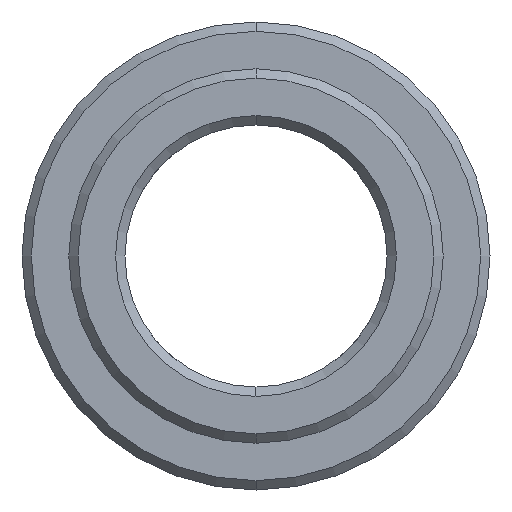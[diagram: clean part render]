
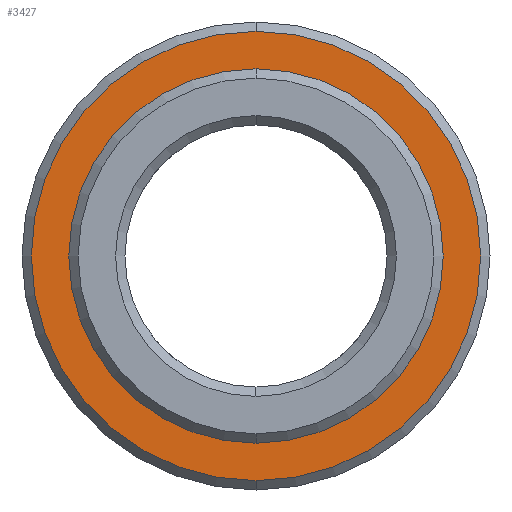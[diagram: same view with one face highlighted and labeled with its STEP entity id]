
A CAD part, left-side view. The second image highlights one B-rep face of the part: STEP entity #3427.
In plain terms, the highlighted planar face has unit normal (-1, 0, 0).
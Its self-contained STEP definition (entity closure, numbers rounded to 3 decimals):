
#2016=CARTESIAN_POINT('',(0.,0.,0.));
#2017=DIRECTION('',(1.,0.,0.));
#2018=DIRECTION('',(0.,0.,1.));
#2019=AXIS2_PLACEMENT_3D('',#2016,#2017,#2018);
#2021=CARTESIAN_POINT('',(0.,0.,0.));
#2022=DIRECTION('',(-1.,0.,0.));
#2023=DIRECTION('',(0.,0.,1.));
#2024=AXIS2_PLACEMENT_3D('',#2021,#2022,#2023);
#2026=CARTESIAN_POINT('',(0.,0.,0.));
#2027=DIRECTION('',(1.,0.,0.));
#2028=DIRECTION('',(0.,0.,-1.));
#2029=AXIS2_PLACEMENT_3D('',#2026,#2027,#2028);
#2031=CARTESIAN_POINT('',(0.,0.,0.));
#2032=DIRECTION('',(1.,0.,0.));
#2033=DIRECTION('',(0.,0.,1.));
#2034=AXIS2_PLACEMENT_3D('',#2031,#2032,#2033);
#2250=CARTESIAN_POINT('',(0.,0.,-12.));
#2251=CARTESIAN_POINT('',(0.,0.,12.));
#2252=VERTEX_POINT('',#2250);
#2253=VERTEX_POINT('',#2251);
#2258=CARTESIAN_POINT('',(0.,0.,10.));
#2259=CARTESIAN_POINT('',(0.,0.,-10.));
#2260=VERTEX_POINT('',#2258);
#2261=VERTEX_POINT('',#2259);
#3412=CARTESIAN_POINT('',(0.,0.,0.));
#3413=DIRECTION('',(1.,0.,0.));
#3414=DIRECTION('',(0.,0.,1.));
#3415=AXIS2_PLACEMENT_3D('',#3412,#3413,#3414);
#3416=PLANE('',#3415);
#3417=ORIENTED_EDGE('',*,*,#3392,.T.);
#3418=ORIENTED_EDGE('',*,*,#3406,.T.);
#3419=EDGE_LOOP('',(#3417,#3418));
#3420=FACE_OUTER_BOUND('',#3419,.F.);
#3422=ORIENTED_EDGE('',*,*,#3421,.F.);
#3424=ORIENTED_EDGE('',*,*,#3423,.T.);
#3425=EDGE_LOOP('',(#3422,#3424));
#3426=FACE_BOUND('',#3425,.F.);
#3427=ADVANCED_FACE('',(#3420,#3426),#3416,.F.);
#2020=CIRCLE('',#2019,10.);
#2025=CIRCLE('',#2024,10.);
#2030=CIRCLE('',#2029,12.);
#2035=CIRCLE('',#2034,12.);
#3392=EDGE_CURVE('',#2252,#2253,#2030,.T.);
#3406=EDGE_CURVE('',#2253,#2252,#2035,.T.);
#3421=EDGE_CURVE('',#2260,#2261,#2020,.T.);
#3423=EDGE_CURVE('',#2260,#2261,#2025,.T.);
